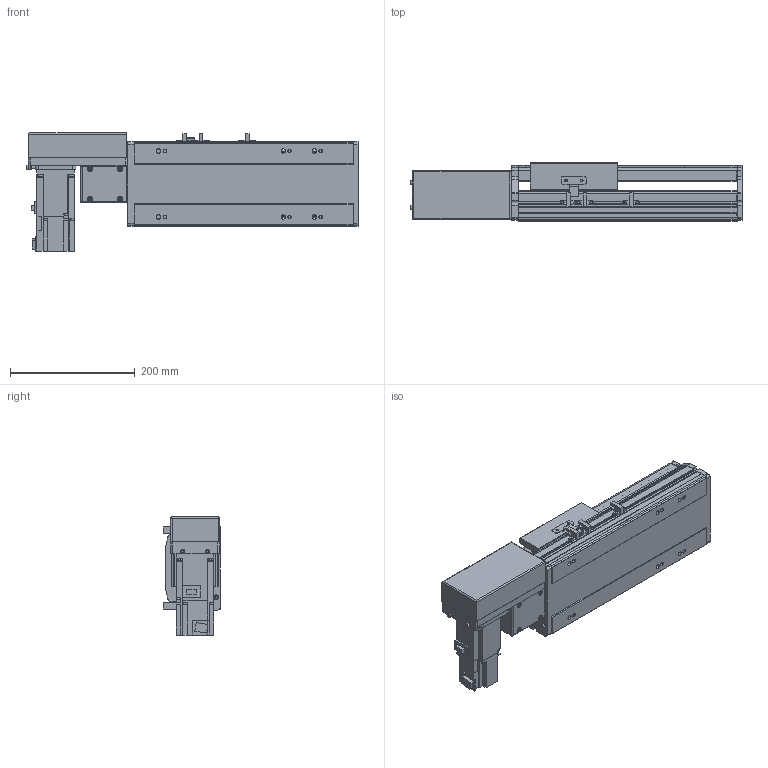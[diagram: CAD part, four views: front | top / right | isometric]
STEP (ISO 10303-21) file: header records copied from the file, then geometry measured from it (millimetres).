
FILE_DESCRIPTION( ( 'STEP AP214' ), '1' );
FILE_NAME( 'x:/temp/worker_6/temp/exporttempdir_5396_45_AaVeB/format_0/PBS140S-P40-S100-R-T40-C1-N(0).stp', '2022-06-09T00:11:46', ( 'License CC BY-ND 4.0' ), ( 'CADENAS' ), ' ', 'PARTsolutions', ' ' );
FILE_SCHEMA( ( 'AUTOMOTIVE_DESIGN { 1 0 10303 214 1 1 1 1 }' ) );
Length unit declared in the file: millimetre
Products named in the file (7): PBS140S-P40-S100-R-T40-C1-N(0); _PBS140S-S100()_body; _PBS140ST-R_motors; _T40-p1; _PBS140S_sliser; _PBS140S_plant; _PBS140S_sensor
Assembly tree (8 placements, depth 2):
  PBS140S-P40-S100-R-T40-C1-N(0)
    _PBS140S-S100()_body
    _PBS140ST-R_motors
    _T40-p1
    _PBS140S_sliser
    _PBS140S_plant
    _PBS140S_sensor  x3
Bounding box: 533 x 93 x 189.7 mm (x, y, z)
Volume: 2939606.6 mm3; surface area: 549066.9 mm2
Topology: 8 solids, 8 shells, 1019 faces, 2711 edges, 1775 vertices
Faces by surface type: plane 672, cylinder 305, cone 32, sphere 8, torus 2
Full cylindrical faces by diameter (mm): 3.242 x4, 4 x2, 4.134 x4, 4.4 x8, 4.5 x2, 4.8 x4, 4.917 x14, 5.5 x7, 6 x2, 7 x8, 7.5 x8, 8 x12, 8.5 x4, 10.5 x6, 14 x1, 30 x2, 50 x2
Entity records: 37126 total; most frequent: CARTESIAN_POINT 5566, DIRECTION 4998, ORIENTED_EDGE 4762, EDGE_CURVE 2381, AXIS2_PLACEMENT_3D 1709, VERTEX_POINT 1633, LINE 1580, VECTOR 1580
